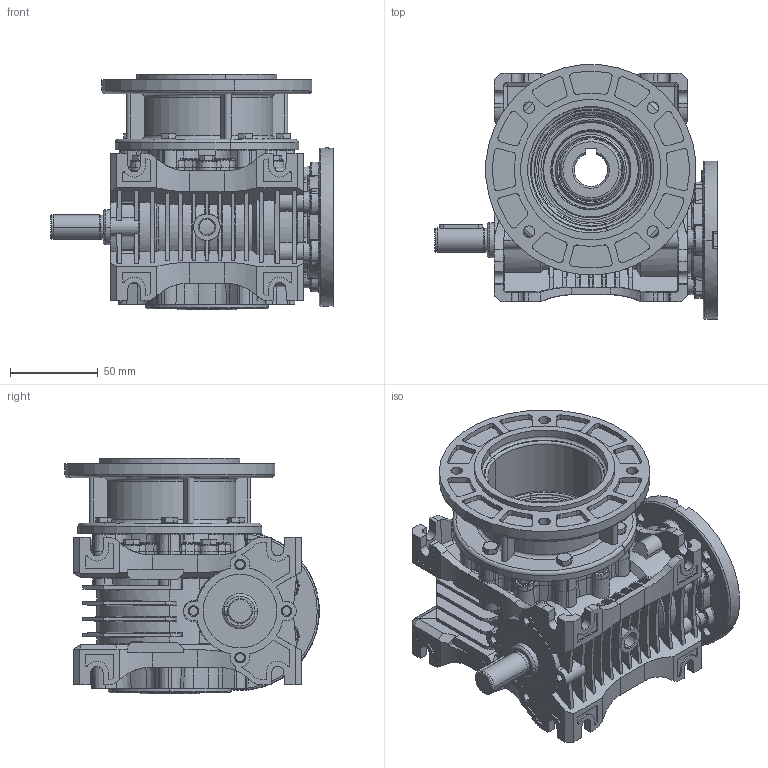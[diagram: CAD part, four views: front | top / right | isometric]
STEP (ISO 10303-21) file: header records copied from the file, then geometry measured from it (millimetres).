
FILE_DESCRIPTION (( 'STEP AP203' ), '1' );
FILE_NAME ('MR-40_90-11-WBS-K120_2-3D.STEP', '2023-06-02T09:50:15', ( '' ), ( '' ), 'SwSTEP 2.0', 'SolidWorks 2022', '' );
FILE_SCHEMA (( 'CONFIG_CONTROL_DESIGN' ));
Products named in the file (1): MR-40_90-11-WBS-K120_2-3D
Bounding box: 161 x 144.83 x 134 mm (x, y, z)
Volume: 924038.5 mm3; surface area: 205802.7 mm2
Topology: 1 solids, 37 shells, 3797 faces, 9540 edges, 5878 vertices
Faces by surface type: plane 1199, cone 878, cylinder 652, bspline 596, torus 390, sphere 82
Entity records: 136237 total; most frequent: CARTESIAN_POINT 49994, ORIENTED_EDGE 18972, DIRECTION 17378, EDGE_CURVE 9486, AXIS2_PLACEMENT_3D 6943, VERTEX_POINT 5878, EDGE_LOOP 3954, FACE_OUTER_BOUND 3797
